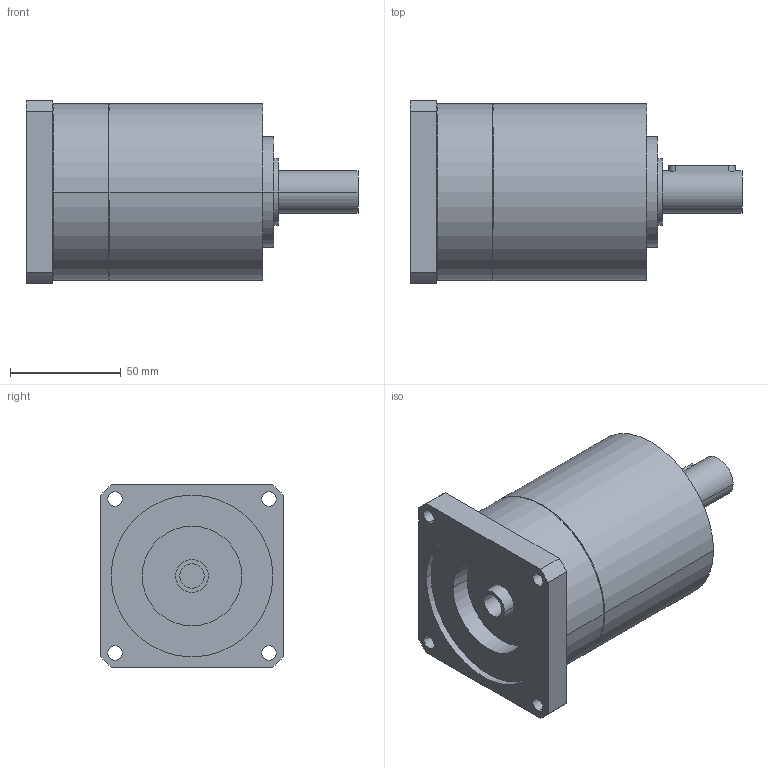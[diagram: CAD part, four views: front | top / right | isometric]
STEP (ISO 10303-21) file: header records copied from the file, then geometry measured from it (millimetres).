
FILE_DESCRIPTION(('CoCreate Modeling STEP Export'),'2;1');
FILE_NAME('GPR100_ig-3-4-5-6_19_B14_11_P05.stp','2014-08-26T10:01:37',(''),(''),'CoCreate Modeling STEP processor for AP214 (Solid Model)','CoCreate Modeling 16.00C 25-Feb-2009 (C) Parametric Technology GmbH','');
FILE_SCHEMA(('AUTOMOTIVE_DESIGN { 1 0 10303 214 1 1 1 1 }'));
Length unit declared in the file: millimetre
Products named in the file (2): GPR100_ig-3-4-5-6_19_B14_11_P05
Assembly tree (1 placements, depth 2):
  GPR100_ig-3-4-5-6_19_B14_11_P05
    GPR100_ig-3-4-5-6_19_B14_11_P05
Bounding box: 150 x 82.5 x 82.5 mm (x, y, z)
Volume: 548854.5 mm3; surface area: 50008.6 mm2
Topology: 1 solids, 1 shells, 70 faces, 187 edges, 131 vertices
Faces by surface type: cylinder 42, plane 22, cone 6
Entity records: 1934 total; most frequent: ORIENTED_EDGE 370, CARTESIAN_POINT 359, DIRECTION 262, EDGE_CURVE 185, VERTEX_POINT 131, AXIS2_PLACEMENT_3D 98, EDGE_LOOP 92, FACE_OUTER_BOUND 70
